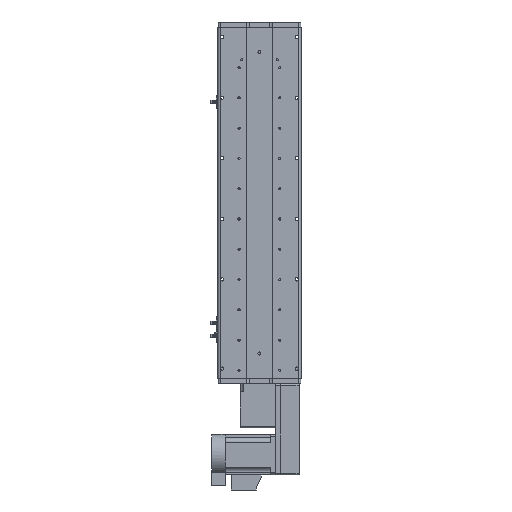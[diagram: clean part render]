
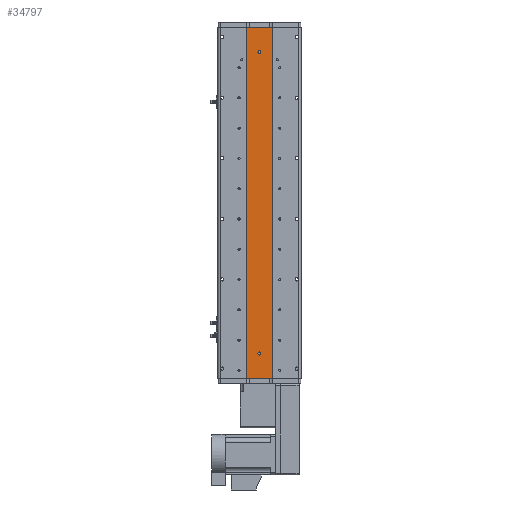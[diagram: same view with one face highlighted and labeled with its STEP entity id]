
A CAD part, front view. The second image highlights one B-rep face of the part: STEP entity #34797.
In plain terms, the highlighted planar face has unit normal (0, -1, 0).
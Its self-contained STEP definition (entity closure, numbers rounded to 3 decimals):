
#2035 = AXIS2_PLACEMENT_3D ( 'NONE', #50954, #31587, #55774 ) ;
#2126 = VERTEX_POINT ( 'NONE', #27763 ) ;
#2950 = VERTEX_POINT ( 'NONE', #21678 ) ;
#3669 = CARTESIAN_POINT ( 'NONE',  ( 25., 1., -348.5 ) ) ;
#3810 = CARTESIAN_POINT ( 'NONE',  ( 0., 1., -298.5 ) ) ;
#3849 = CARTESIAN_POINT ( 'NONE',  ( 25., 1., 348.5 ) ) ;
#4593 = VECTOR ( 'NONE', #37084, 1000. ) ;
#4801 = DIRECTION ( 'NONE',  ( 0., 1., 0. ) ) ;
#6048 = FACE_OUTER_BOUND ( 'NONE', #40499, .T. ) ;
#6417 = CARTESIAN_POINT ( 'NONE',  ( 25., 1., -348.5 ) ) ;
#8596 = DIRECTION ( 'NONE',  ( 0., 0., 1. ) ) ;
#10222 = CARTESIAN_POINT ( 'NONE',  ( -25., 1., -348.5 ) ) ;
#11222 = AXIS2_PLACEMENT_3D ( 'NONE', #3810, #37052, #8596 ) ;
#12695 = ORIENTED_EDGE ( 'NONE', *, *, #30549, .T. ) ;
#12809 = VERTEX_POINT ( 'NONE', #36264 ) ;
#15107 = ORIENTED_EDGE ( 'NONE', *, *, #43472, .T. ) ;
#17406 = DIRECTION ( 'NONE',  ( 0., 0., -1. ) ) ;
#17588 = PLANE ( 'NONE',  #2035 ) ;
#18285 = VERTEX_POINT ( 'NONE', #47312 ) ;
#18769 = EDGE_CURVE ( 'NONE', #12809, #46024, #22227, .T. ) ;
#18780 = CARTESIAN_POINT ( 'NONE',  ( 0., 1., 298.5 ) ) ;
#18878 = CARTESIAN_POINT ( 'NONE',  ( 25., 1., 348.5 ) ) ;
#21277 = ORIENTED_EDGE ( 'NONE', *, *, #37866, .T. ) ;
#21678 = CARTESIAN_POINT ( 'NONE',  ( 0., 1., 295.5 ) ) ;
#22227 = LINE ( 'NONE', #18878, #58827 ) ;
#22887 = ORIENTED_EDGE ( 'NONE', *, *, #28913, .T. ) ;
#23583 = DIRECTION ( 'NONE',  ( 0., 0., 1. ) ) ;
#23764 = DIRECTION ( 'NONE',  ( 0., 1., 0. ) ) ;
#24019 = EDGE_LOOP ( 'NONE', ( #21277, #12695 ) ) ;
#24309 = CIRCLE ( 'NONE', #60765, 3. ) ;
#26762 = VECTOR ( 'NONE', #17406, 1000. ) ;
#26999 = CARTESIAN_POINT ( 'NONE',  ( 0., 1., -295.5 ) ) ;
#27150 = VECTOR ( 'NONE', #36926, 1000. ) ;
#27763 = CARTESIAN_POINT ( 'NONE',  ( -25., 1., 348.5 ) ) ;
#28271 = LINE ( 'NONE', #36407, #26762 ) ;
#28913 = EDGE_CURVE ( 'NONE', #2950, #18285, #24309, .T. ) ;
#29828 = LINE ( 'NONE', #3849, #4593 ) ;
#30549 = EDGE_CURVE ( 'NONE', #47482, #51155, #39859, .T. ) ;
#31271 = FACE_BOUND ( 'NONE', #24019, .T. ) ;
#31463 = CIRCLE ( 'NONE', #32849, 3. ) ;
#31587 = DIRECTION ( 'NONE',  ( 0., 1., 0. ) ) ;
#32849 = AXIS2_PLACEMENT_3D ( 'NONE', #18780, #52159, #23583 ) ;
#33252 = CARTESIAN_POINT ( 'NONE',  ( 0., 1., -298.5 ) ) ;
#34797 = ADVANCED_FACE ( 'NONE', ( #31271, #55163, #6048 ), #17588, .F. ) ;
#36102 = ORIENTED_EDGE ( 'NONE', *, *, #42940, .F. ) ;
#36111 = VERTEX_POINT ( 'NONE', #10222 ) ;
#36264 = CARTESIAN_POINT ( 'NONE',  ( 25., 1., 348.5 ) ) ;
#36407 = CARTESIAN_POINT ( 'NONE',  ( -25., 1., 348.5 ) ) ;
#36926 = DIRECTION ( 'NONE',  ( 1., 0., 0. ) ) ;
#37052 = DIRECTION ( 'NONE',  ( 0., 1., 0. ) ) ;
#37074 = ORIENTED_EDGE ( 'NONE', *, *, #37229, .T. ) ;
#37084 = DIRECTION ( 'NONE',  ( 1., 0., 0. ) ) ;
#37229 = EDGE_CURVE ( 'NONE', #36111, #46024, #41395, .T. ) ;
#37866 = EDGE_CURVE ( 'NONE', #51155, #47482, #59918, .T. ) ;
#38048 = DIRECTION ( 'NONE',  ( 0., 0., 1. ) ) ;
#39159 = ORIENTED_EDGE ( 'NONE', *, *, #54679, .T. ) ;
#39859 = CIRCLE ( 'NONE', #41689, 3. ) ;
#40499 = EDGE_LOOP ( 'NONE', ( #37074, #49536, #36102, #15107 ) ) ;
#41395 = LINE ( 'NONE', #3669, #27150 ) ;
#41689 = AXIS2_PLACEMENT_3D ( 'NONE', #33252, #4801, #38048 ) ;
#42698 = DIRECTION ( 'NONE',  ( 0., 0., -1. ) ) ;
#42940 = EDGE_CURVE ( 'NONE', #2126, #12809, #29828, .T. ) ;
#43472 = EDGE_CURVE ( 'NONE', #2126, #36111, #28271, .T. ) ;
#46024 = VERTEX_POINT ( 'NONE', #6417 ) ;
#46120 = EDGE_LOOP ( 'NONE', ( #22887, #39159 ) ) ;
#47312 = CARTESIAN_POINT ( 'NONE',  ( 0., 1., 301.5 ) ) ;
#47482 = VERTEX_POINT ( 'NONE', #26999 ) ;
#49536 = ORIENTED_EDGE ( 'NONE', *, *, #18769, .F. ) ;
#50954 = CARTESIAN_POINT ( 'NONE',  ( 25., 1., 348.5 ) ) ;
#51155 = VERTEX_POINT ( 'NONE', #55037 ) ;
#52159 = DIRECTION ( 'NONE',  ( 0., 1., 0. ) ) ;
#52326 = CARTESIAN_POINT ( 'NONE',  ( 0., 1., 298.5 ) ) ;
#54679 = EDGE_CURVE ( 'NONE', #18285, #2950, #31463, .T. ) ;
#55037 = CARTESIAN_POINT ( 'NONE',  ( 0., 1., -301.5 ) ) ;
#55163 = FACE_BOUND ( 'NONE', #46120, .T. ) ;
#55774 = DIRECTION ( 'NONE',  ( 0., 0., 1. ) ) ;
#57119 = DIRECTION ( 'NONE',  ( 0., 0., 1. ) ) ;
#58827 = VECTOR ( 'NONE', #42698, 1000. ) ;
#59918 = CIRCLE ( 'NONE', #11222, 3. ) ;
#60765 = AXIS2_PLACEMENT_3D ( 'NONE', #52326, #23764, #57119 ) ;
